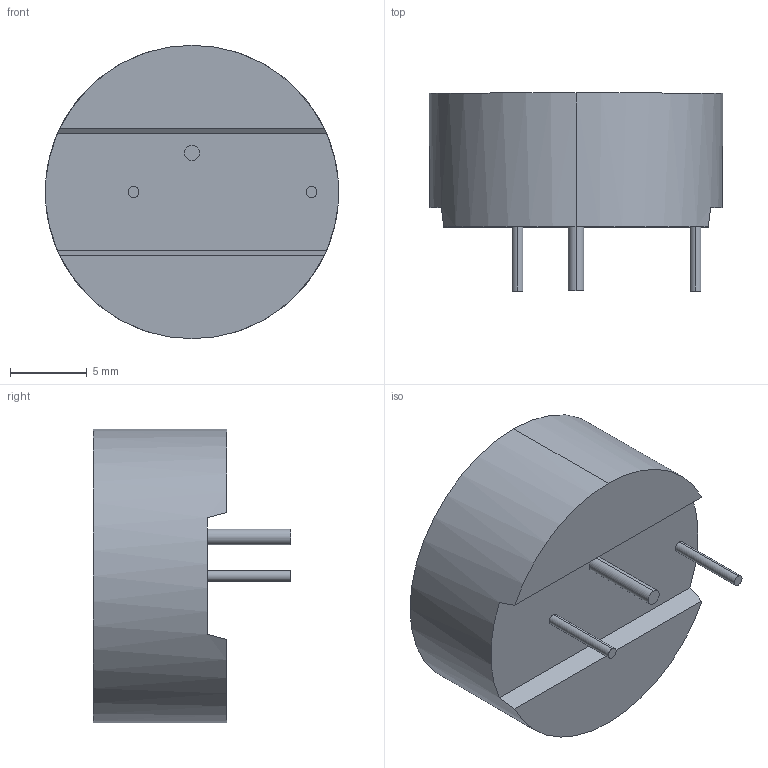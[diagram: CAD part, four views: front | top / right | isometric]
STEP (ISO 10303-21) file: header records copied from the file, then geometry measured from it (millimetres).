
FILE_DESCRIPTION (( 'STEP AP214' ), '1' );
FILE_NAME ('IHTH_IHTH0750IZ 100uH.step', '2014-06-30T13:57:58', ( '' ), ( '' ), 'SwSTEP 2.0', 'SolidWorks 2014', '' );
FILE_SCHEMA (( 'AUTOMOTIVE_DESIGN' ));
Length unit declared in the file: inch
Products named in the file (1): IHTH_IHTH0750IZ 100uH
Bounding box: 19.18 x 12.93 x 19.18 mm (x, y, z)
Volume: 2344.1 mm3; surface area: 1159.9 mm2
Topology: 1 solids, 1 shells, 42 faces, 96 edges, 64 vertices
Faces by surface type: plane 34, cylinder 8
Entity records: 1350 total; most frequent: CARTESIAN_POINT 215, DIRECTION 198, ORIENTED_EDGE 192, EDGE_CURVE 96, VECTOR 72, LINE 72, VERTEX_POINT 64, AXIS2_PLACEMENT_3D 63
